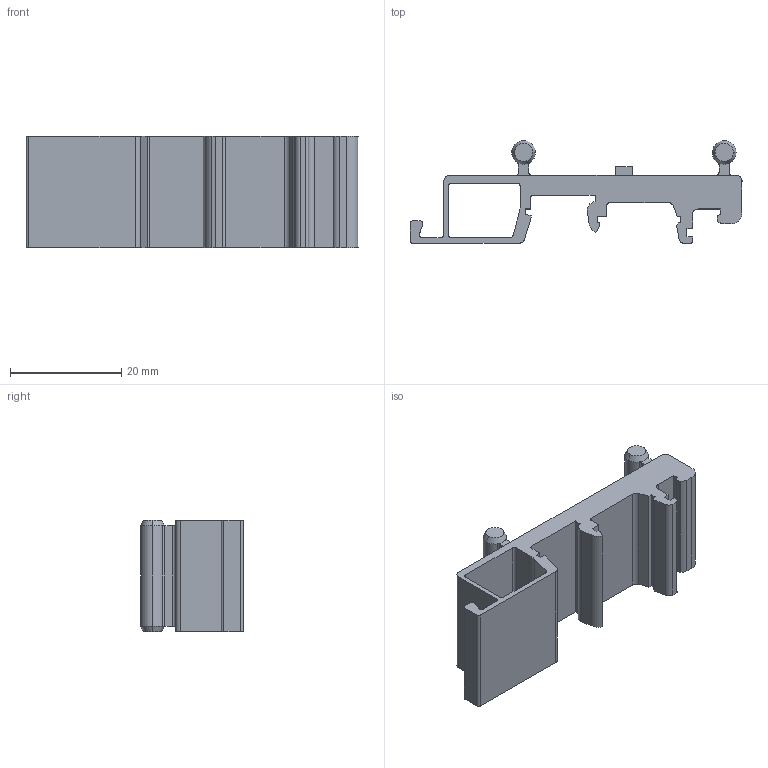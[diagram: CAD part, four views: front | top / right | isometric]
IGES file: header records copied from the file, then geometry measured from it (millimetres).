
Start section:  PTC IGES file: cu_cb50_din.igs
Global section: file name: cu_cb50_din.igs; native system: Pro/ENGINEER by Parametric Technology Corporation; preprocessor: 2006300; author: chrisj; organization: Unknown; date: 20080905.080909; units: inch
Bounding box: 59.6 x 18.43 x 20 mm (x, y, z)
Surface area: 5738 mm2 (no closed solid volume)
Topology: 0 solids, 0 shells, 115 faces, 630 edges, 630 vertices
Faces by surface type: bspline 67, revolution 48
